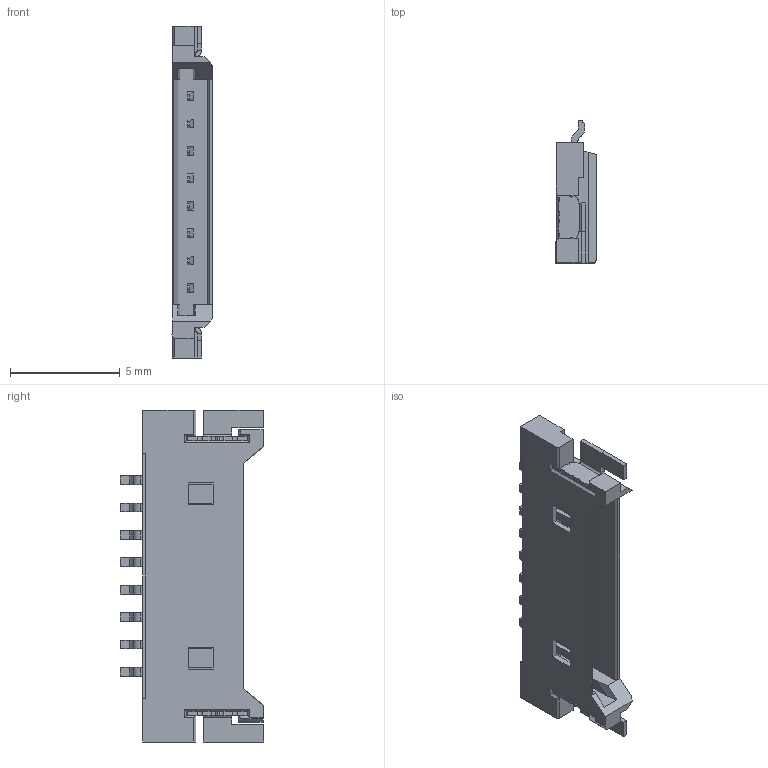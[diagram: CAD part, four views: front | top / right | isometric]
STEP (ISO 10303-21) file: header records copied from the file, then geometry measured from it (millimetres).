
FILE_DESCRIPTION((''),'2;1');
FILE_NAME('21','2016-04-25T',('k55943'),(''),'PRO/ENGINEER BY PARAMETRIC TECHNOLOGY CORPORATION, 2009360','PRO/ENGINEER BY PARAMETRIC TECHNOLOGY CORPORATION, 2009360','');
FILE_SCHEMA(('CONFIG_CONTROL_DESIGN'));
Length unit declared in the file: millimetre
Products named in the file (1): 21
Bounding box: 1.9 x 6.54 x 15.15 mm (x, y, z)
Volume: 59.8 mm3; surface area: 358.6 mm2
Topology: 1 solids, 17 shells, 560 faces, 1430 edges, 922 vertices
Faces by surface type: plane 504, cylinder 56
Entity records: 16568 total; most frequent: CARTESIAN_POINT 2912, ORIENTED_EDGE 2860, DIRECTION 2662, EDGE_CURVE 1430, VECTOR 1318, LINE 1318, VERTEX_POINT 922, AXIS2_PLACEMENT_3D 672
